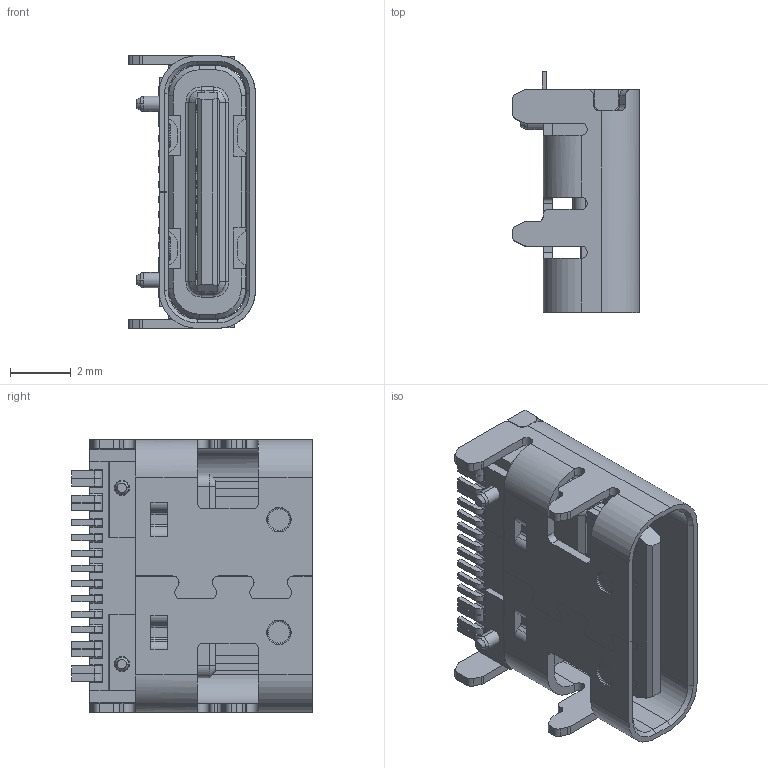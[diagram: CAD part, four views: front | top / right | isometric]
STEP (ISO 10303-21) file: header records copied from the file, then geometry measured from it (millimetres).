
FILE_DESCRIPTION((''),'2;1');
FILE_NAME('YITI','2022-05-21T',('888'),(''),'PRO/ENGINEER BY PARAMETRIC TECHNOLOGY CORPORATION, 2010480','PRO/ENGINEER BY PARAMETRIC TECHNOLOGY CORPORATION, 2010480','');
FILE_SCHEMA(('CONFIG_CONTROL_DESIGN'));
Length unit declared in the file: millimetre
Products named in the file (1): YITI
Bounding box: 4.16 x 7.9 x 8.94 mm (x, y, z)
Volume: 116 mm3; surface area: 472 mm2
Topology: 1 solids, 1 shells, 615 faces, 1799 edges, 1178 vertices
Faces by surface type: plane 433, cylinder 140, torus 20, cone 16, bspline 4, extrusion 2
Entity records: 20576 total; most frequent: CARTESIAN_POINT 3881, ORIENTED_EDGE 3598, DIRECTION 3393, EDGE_CURVE 1799, VECTOR 1383, LINE 1381, VERTEX_POINT 1178, AXIS2_PLACEMENT_3D 1005
